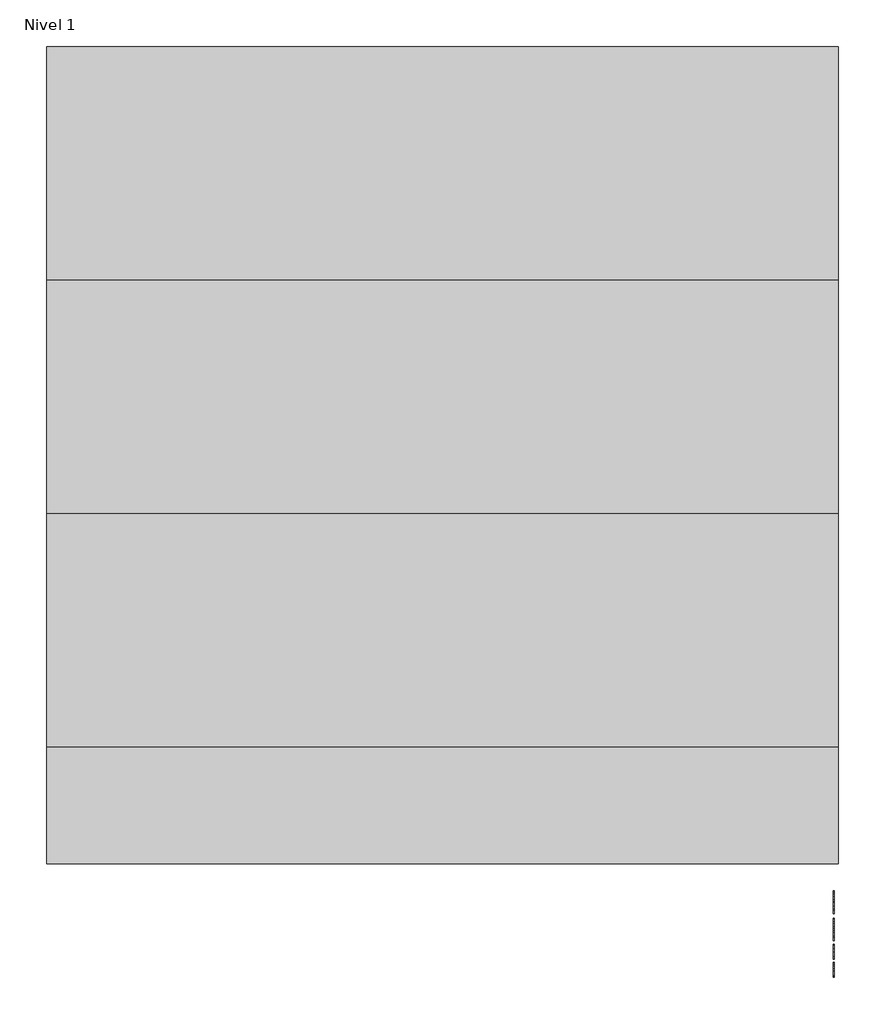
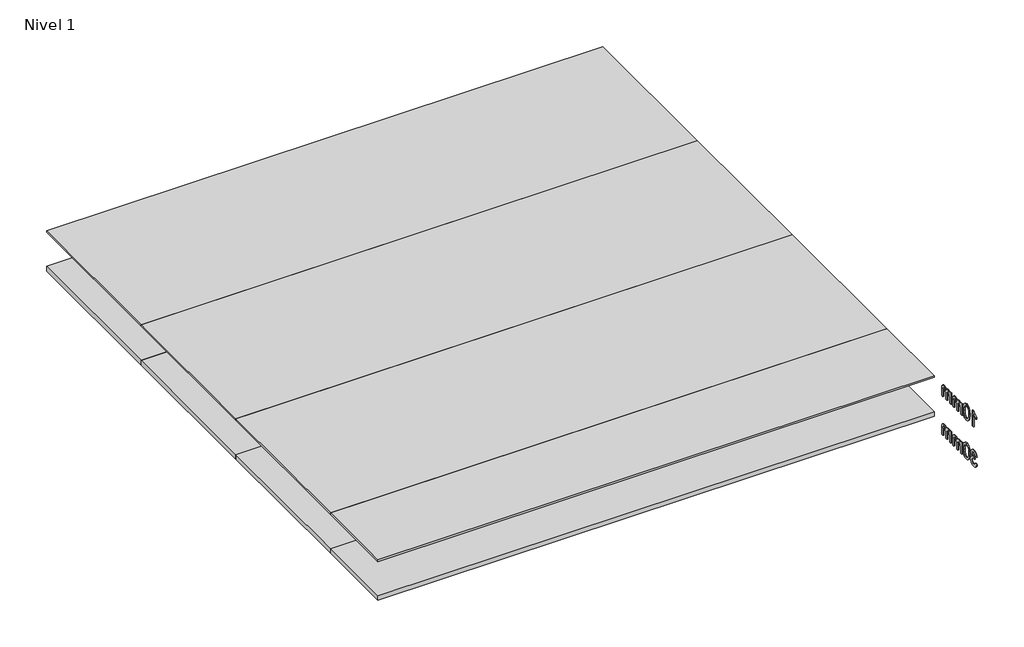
# One storey: 8 plates, 2 proxies.
"""IFC4 building model written with IfcOpenShell, lengths in millimetres."""

from ifc_helpers import new_model, si_unit, frame, origin, place, context, project, spatial, polyline, outline, extrude, transform, mapped, element, save
from components import panel_del_sistema_68a6e451, panel_del_sistema_ad268808, panel_del_sistema_0874d057, panel_del_sistema_36a2e9c3

model = new_model("IFC4")

# Units and contexts
model_context = context("Model", 3, world=origin())
ifc_project = project(units=[si_unit("LENGTHUNIT", "METRE", prefix="MILLI")], contexts=[model_context])

# Site, building, storey
site = spatial("IfcSite", under=ifc_project)
building = spatial("IfcBuilding", under=site)
storey = spatial("IfcBuildingStorey", under=building, Name="Nivel 1", Elevation=0.0)

# Proxies
placement = place(None, origin())
element("IfcBuildingElementProxy", 1, Name="100mm Arial", ObjectType="100mm Arial", at=placement, inside=storey, context=model_context, shape_type="SweptSolid", body=[
    extrude(outline(polyline([(14811.6332666, -540.4578656), (14824.1903054, -538.8882358), (14831.1187496, -552.1074622), (14844.0804586, -556.1541641), (14852.6888973, -554.7623439), (14859.3352987, -550.5868832), (14865.0006814, -536.8035712), (14859.3843496, -523.8173367), (14845.1105282, -518.6792515), (14836.3058858, -520.0526776), (14837.7038373, -507.4956389), (14839.7149256, -507.6427917), (14853.9642215, -504.0375481), (14858.7098993, -499.4635487), (14860.2917918, -492.9520373), (14855.7055296, -483.1295881), (14843.8842549, -479.2423016), (14831.9158273, -483.1663763), (14825.7599352, -494.9386001), (14813.2028965, -493.3689703), (14816.9001105, -482.0933871), (14823.4790669, -473.6750208), (14832.479913, -468.4327024), (14843.4427965, -466.6852629), (14858.5872719, -470.1310909), (14869.1822734, -479.54887), (14872.8488306, -492.2162733), (14869.3662144, -503.7922935), (14859.0655185, -512.1064266), (14872.7507287, -520.6903398), (14877.5577201, -537.0243004), (14875.1542244, -549.2625081), (14867.9437373, -559.4896275), (14857.0605616, -566.405809), (14843.6390002, -568.7112029), (14831.4988943, -566.7430342), (14821.6151314, -560.8385282), (14814.7418695, -551.8070252), (14811.6332666, -540.4578656)])), frame((9557.0230098, 0.0, 0.0), z_axis=(1.0, 0.0, 0.0), x_axis=(0.0, 1.0, 0.0)), (0.0, 0.0, 1.0), 5.0),
    extrude(outline(polyline([(14888.5451291, -517.7227583), (14892.2362118, -488.8194963), (14903.1990952, -472.1544419), (14921.5073558, -466.6852629), (14936.1735847, -469.9226244), (14946.3026023, -479.2545644), (14952.1887142, -494.116997), (14954.4695826, -517.7227583), (14950.8152881, -546.5033931), (14939.8891929, -563.2052357), (14931.6578332, -567.3347111), (14921.5073558, -568.7112029), (14908.4598077, -566.3199699), (14898.5515193, -559.146271), (14891.0467266, -542.1562542), (14888.5451291, -517.7227583)]), holes=[polyline([(14901.1021678, -517.6982329), (14902.5736958, -537.4504303), (14906.9882798, -548.8823633), (14913.5611047, -554.3362139), (14921.5073558, -556.1541641), (14929.4536069, -554.3300825), (14936.0264319, -548.8578379), (14940.4410159, -537.4197735), (14941.9125438, -517.6982329), (14940.4900668, -498.3905595), (14936.2226356, -486.8697217), (14929.6620734, -481.1491567), (14921.360203, -479.2423016), (14913.4997911, -480.9222961), (14907.1844835, -485.9622794), (14902.6227467, -498.2004871), (14901.1021678, -517.6982329)])]), frame((9557.0230098, 0.0, 0.0), z_axis=(1.0, 0.0, 0.0), x_axis=(0.0, 1.0, 0.0)), (0.0, 0.0, 1.0), 5.0),
    extrude(outline(polyline([(14968.5962512, -567.141573), (14968.5962512, -493.3689703), (14981.15329, -493.3689703), (14981.15329, -505.5090761), (14989.7862541, -495.5639995), (15002.0735128, -491.7993404), (15014.655077, -495.6375759), (15021.5712585, -506.3919929), (15031.3691823, -495.4475035), (15043.7422801, -491.7993404), (15053.181519, -493.3168536), (15060.1620798, -497.8693933), (15064.4754962, -505.5795868), (15065.9133017, -516.5700614), (15065.9133017, -567.141573), (15053.3562629, -567.141573), (15053.3562629, -521.965664), (15052.1913033, -511.4810272), (15047.972923, -506.3184165), (15040.7992241, -504.3563792), (15028.4506518, -509.3840998), (15024.7626348, -515.9262679), (15023.5332958, -525.4973312), (15023.5332958, -567.141573), (15010.9762571, -567.141573), (15010.9762571, -520.5677124), (15008.0699893, -508.4030811), (14998.5418456, -504.3563792), (14989.2466939, -507.0541805), (14983.0662764, -514.9513806), (14981.15329, -529.9364406), (14981.15329, -567.141573), (14968.5962512, -567.141573)])), frame((9557.0230098, 0.0, 0.0), z_axis=(1.0, 0.0, 0.0), x_axis=(0.0, 1.0, 0.0)), (0.0, 0.0, 1.0), 5.0),
    extrude(outline(polyline([(15084.7488598, -567.141573), (15084.7488598, -493.3689703), (15097.3058986, -493.3689703), (15097.3058986, -505.5090761), (15105.9388628, -495.5639995), (15118.2261214, -491.7993404), (15130.8076856, -495.6375759), (15137.7238671, -506.3919929), (15147.5217909, -495.4475035), (15159.8948887, -491.7993404), (15169.3341276, -493.3168536), (15176.3146884, -497.8693933), (15180.6281048, -505.5795868), (15182.0659103, -516.5700614), (15182.0659103, -567.141573), (15169.5088715, -567.141573), (15169.5088715, -521.965664), (15168.3439119, -511.4810272), (15164.1255317, -506.3184165), (15156.9518327, -504.3563792), (15144.6032604, -509.3840998), (15140.9152434, -515.9262679), (15139.6859044, -525.4973312), (15139.6859044, -567.141573), (15127.1288657, -567.141573), (15127.1288657, -520.5677124), (15124.2225979, -508.4030811), (15114.6944542, -504.3563792), (15105.3993025, -507.0541805), (15099.218885, -514.9513806), (15097.3058986, -529.9364406), (15097.3058986, -567.141573), (15084.7488598, -567.141573)])), frame((9557.0230098, 0.0, 0.0), z_axis=(1.0, 0.0, 0.0), x_axis=(0.0, 1.0, 0.0)), (0.0, 0.0, 1.0), 5.0),
])
element("IfcBuildingElementProxy", 2, Name="100mm Arial", ObjectType="100mm Arial", at=placement, inside=storey, context=model_context, shape_type="SweptSolid", body=[
    extrude(outline(polyline([(14858.722162, -317.141573), (14846.1651232, -317.141573), (14846.1651232, -238.8562845), (14834.270272, -247.3298331), (14821.0510457, -253.6696661), (14821.0510457, -241.7993404), (14839.4574082, -230.051642), (14850.6287581, -216.6852629), (14858.722162, -216.6852629), (14858.722162, -317.141573)])), frame((9557.0230098, 0.0, 0.0), z_axis=(1.0, 0.0, 0.0), x_axis=(0.0, 1.0, 0.0)), (0.0, 0.0, 1.0), 5.0),
    extrude(outline(polyline([(14888.5451291, -267.7227583), (14892.2362118, -238.8194963), (14903.1990952, -222.1544419), (14921.5073558, -216.6852629), (14936.1735847, -219.9226244), (14946.3026023, -229.2545644), (14952.1887142, -244.116997), (14954.4695826, -267.7227583), (14950.8152881, -296.5033931), (14939.8891929, -313.2052357), (14931.6578332, -317.3347111), (14921.5073558, -318.7112029), (14908.4598077, -316.3199699), (14898.5515193, -309.146271), (14891.0467266, -292.1562542), (14888.5451291, -267.7227583)]), holes=[polyline([(14901.1021678, -267.6982329), (14902.5736958, -287.4504303), (14906.9882798, -298.8823633), (14913.5611047, -304.3362139), (14921.5073558, -306.1541641), (14929.4536069, -304.3300825), (14936.0264319, -298.8578379), (14940.4410159, -287.4197735), (14941.9125438, -267.6982329), (14940.4900668, -248.3905595), (14936.2226356, -236.8697217), (14929.6620734, -231.1491567), (14921.360203, -229.2423016), (14913.4997911, -230.9222961), (14907.1844835, -235.9622794), (14902.6227467, -248.2004871), (14901.1021678, -267.6982329)])]), frame((9557.0230098, 0.0, 0.0), z_axis=(1.0, 0.0, 0.0), x_axis=(0.0, 1.0, 0.0)), (0.0, 0.0, 1.0), 5.0),
    extrude(outline(polyline([(14968.5962512, -317.141573), (14968.5962512, -243.3689703), (14981.15329, -243.3689703), (14981.15329, -255.5090761), (14989.7862541, -245.5639995), (15002.0735128, -241.7993404), (15014.655077, -245.6375759), (15021.5712585, -256.3919929), (15031.3691823, -245.4475035), (15043.7422801, -241.7993404), (15053.181519, -243.3168536), (15060.1620798, -247.8693933), (15064.4754962, -255.5795868), (15065.9133017, -266.5700614), (15065.9133017, -317.141573), (15053.3562629, -317.141573), (15053.3562629, -271.965664), (15052.1913033, -261.4810272), (15047.972923, -256.3184165), (15040.7992241, -254.3563792), (15028.4506518, -259.3840998), (15024.7626348, -265.9262679), (15023.5332958, -275.4973312), (15023.5332958, -317.141573), (15010.9762571, -317.141573), (15010.9762571, -270.5677124), (15008.0699893, -258.4030811), (14998.5418456, -254.3563792), (14989.2466939, -257.0541805), (14983.0662764, -264.9513806), (14981.15329, -279.9364406), (14981.15329, -317.141573), (14968.5962512, -317.141573)])), frame((9557.0230098, 0.0, 0.0), z_axis=(1.0, 0.0, 0.0), x_axis=(0.0, 1.0, 0.0)), (0.0, 0.0, 1.0), 5.0),
    extrude(outline(polyline([(15084.7488598, -317.141573), (15084.7488598, -243.3689703), (15097.3058986, -243.3689703), (15097.3058986, -255.5090761), (15105.9388628, -245.5639995), (15118.2261214, -241.7993404), (15130.8076856, -245.6375759), (15137.7238671, -256.3919929), (15147.5217909, -245.4475035), (15159.8948887, -241.7993404), (15169.3341276, -243.3168536), (15176.3146884, -247.8693933), (15180.6281048, -255.5795868), (15182.0659103, -266.5700614), (15182.0659103, -317.141573), (15169.5088715, -317.141573), (15169.5088715, -271.965664), (15168.3439119, -261.4810272), (15164.1255317, -256.3184165), (15156.9518327, -254.3563792), (15144.6032604, -259.3840998), (15140.9152434, -265.9262679), (15139.6859044, -275.4973312), (15139.6859044, -317.141573), (15127.1288657, -317.141573), (15127.1288657, -270.5677124), (15124.2225979, -258.4030811), (15114.6944542, -254.3563792), (15105.3993025, -257.0541805), (15099.218885, -264.9513806), (15097.3058986, -279.9364406), (15097.3058986, -317.141573), (15084.7488598, -317.141573)])), frame((9557.0230098, 0.0, 0.0), z_axis=(1.0, 0.0, 0.0), x_axis=(0.0, 1.0, 0.0)), (0.0, 0.0, 1.0), 5.0),
])

# Plates
panel_del_sistema_shape = panel_del_sistema_68a6e451(model_context)
element("IfcPlate", 3, ObjectType="Panel del sistema : HIANSA PANEL - PANELES DE CUBIERTA SIN TAPAJUNTA - EASY ALU 5GR - Esp. 30mm", at=placement, inside=storey, context=model_context, shape_type="MappedRepresentation", body=[
    mapped(panel_del_sistema_shape, transform((9579.0356399, 18298.3330794, -529.5962409), x_axis=(0.0, -1.0, 0.0), y_axis=(0.0, 0.0, 1.0), z_axis=(-1.0, 0.0, 0.0))),
])
element("IfcPlate", 4, ObjectType="Panel del sistema : HIANSA PANEL - PANELES DE CUBIERTA SIN TAPAJUNTA - EASY ALU 5GR - Esp. 30mm", at=placement, inside=storey, context=model_context, shape_type="MappedRepresentation", body=[
    mapped(panel_del_sistema_shape, transform((9579.0356399, 17298.3330793, -529.5962409), x_axis=(0.0, -1.0, 0.0), y_axis=(0.0, 0.0, 1.0), z_axis=(-1.0, 0.0, 0.0))),
])
element("IfcPlate", 5, ObjectType="Panel del sistema : HIANSA PANEL - PANELES DE CUBIERTA SIN TAPAJUNTA - EASY ALU 5GR - Esp. 30mm", at=placement, inside=storey, context=model_context, shape_type="MappedRepresentation", body=[
    mapped(panel_del_sistema_shape, transform((9579.0356399, 16298.3330793, -529.5962409), x_axis=(0.0, -1.0, 0.0), y_axis=(0.0, 0.0, 1.0), z_axis=(-1.0, 0.0, 0.0))),
])
panel_del_sistema_2_shape = panel_del_sistema_ad268808(model_context)
element("IfcPlate", 6, ObjectType="Panel del sistema : HIANSA PANEL - PANELES DE CUBIERTA SIN TAPAJUNTA - EASY ALU 5GR - Esp. 30mm", at=placement, inside=storey, context=model_context, shape_type="MappedRepresentation", body=[
    mapped(panel_del_sistema_2_shape, transform((9579.0356399, 15548.3330794, -529.5962409), x_axis=(0.0, -1.0, 0.0), y_axis=(0.0, 0.0, 1.0), z_axis=(-1.0, 0.0, 0.0))),
])
panel_del_sistema_3_shape = panel_del_sistema_0874d057(model_context)
element("IfcPlate", 7, ObjectType="Panel del sistema : HIANSA PANEL - PANELES DE CUBIERTA SIN TAPAJUNTA - EASY ALU 5GR - Esp. 10mm", at=placement, inside=storey, context=model_context, shape_type="MappedRepresentation", body=[
    mapped(panel_del_sistema_3_shape, transform((9579.0356399, 18298.3330794, -279.5962409), x_axis=(0.0, -1.0, 0.0), y_axis=(0.0, 0.0, 1.0), z_axis=(-1.0, 0.0, 0.0))),
])
element("IfcPlate", 8, ObjectType="Panel del sistema : HIANSA PANEL - PANELES DE CUBIERTA SIN TAPAJUNTA - EASY ALU 5GR - Esp. 10mm", at=placement, inside=storey, context=model_context, shape_type="MappedRepresentation", body=[
    mapped(panel_del_sistema_3_shape, transform((9579.0356399, 17298.3330793, -279.5962409), x_axis=(0.0, -1.0, 0.0), y_axis=(0.0, 0.0, 1.0), z_axis=(-1.0, 0.0, 0.0))),
])
element("IfcPlate", 9, ObjectType="Panel del sistema : HIANSA PANEL - PANELES DE CUBIERTA SIN TAPAJUNTA - EASY ALU 5GR - Esp. 10mm", at=placement, inside=storey, context=model_context, shape_type="MappedRepresentation", body=[
    mapped(panel_del_sistema_3_shape, transform((9579.0356399, 16298.3330793, -279.5962409), x_axis=(0.0, -1.0, 0.0), y_axis=(0.0, 0.0, 1.0), z_axis=(-1.0, 0.0, 0.0))),
])
panel_del_sistema_4_shape = panel_del_sistema_36a2e9c3(model_context)
element("IfcPlate", 10, ObjectType="Panel del sistema : HIANSA PANEL - PANELES DE CUBIERTA SIN TAPAJUNTA - EASY ALU 5GR - Esp. 10mm", at=placement, inside=storey, context=model_context, shape_type="MappedRepresentation", body=[
    mapped(panel_del_sistema_4_shape, transform((9579.0356399, 15548.3330794, -279.5962409), x_axis=(0.0, -1.0, 0.0), y_axis=(0.0, 0.0, 1.0), z_axis=(-1.0, 0.0, 0.0))),
])

save(model, "model.ifc")
